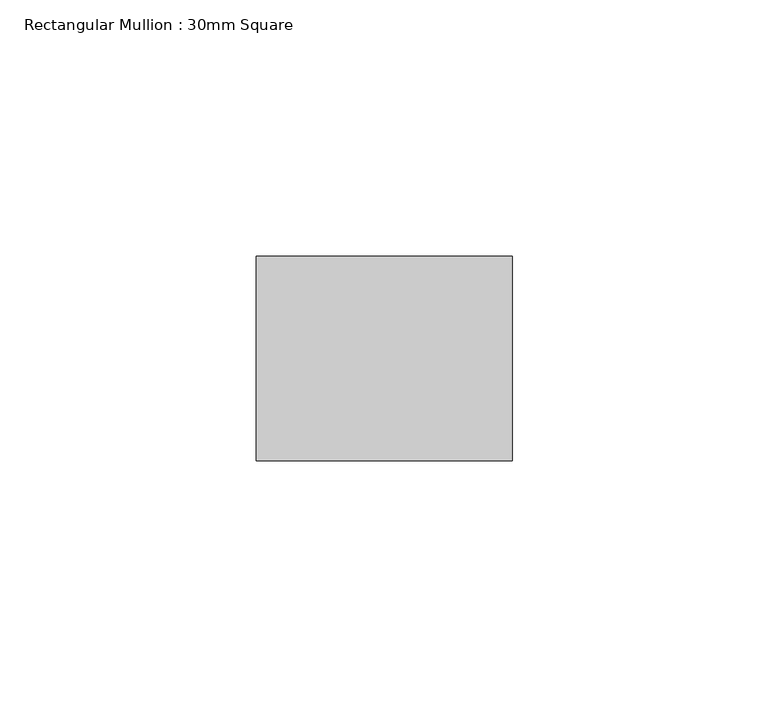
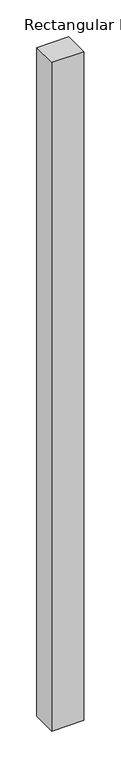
"""IFC4 building model written with IfcOpenShell, lengths in millimetres: member geometry, Rectangular Mullion : 30mm Square."""

from ifc_helpers import new_model, si_unit, frame, origin, place, context, project, spatial, polyline, outline, extrude, source, transform, mapped, element, save


def rectangular_mullion_30mm_square_8b2a8ca9(model_context):
    return source(origin(), model_context, "Body", "SweptSolid", [
        extrude(outline(polyline([(0.0, 20.0), (0.0, -20.0), (-50.0, -20.0), (-50.0, 20.0), (0.0, 20.0)])), frame((0.0, 0.0, -1105.0), z_axis=(0.0, 0.0, 1.0), x_axis=(1.0, 0.0, 0.0)), (0.0, 0.0, 1.0), 1105.0),
    ])


if __name__ == "__main__":
    model = new_model("IFC4")
    model_context = context("Model", 3, world=origin())
    ifc_project = project(units=[si_unit("LENGTHUNIT", "METRE", prefix="MILLI")], contexts=[model_context])
    site = spatial("IfcSite", under=ifc_project)
    building = spatial("IfcBuilding", under=site)
    placement = place(None, origin())
    rectangular_mullion_30mm_square_shape = rectangular_mullion_30mm_square_8b2a8ca9(model_context)
    element("IfcMember", 1, ObjectType="Rectangular Mullion : 30mm Square", at=placement, inside=building, context=model_context, shape_type="MappedRepresentation", body=[
        mapped(rectangular_mullion_30mm_square_shape, transform((0.0, 0.0, 0.0), x_axis=(1.0, 0.0, 0.0), y_axis=(0.0, 1.0, 0.0), z_axis=(0.0, 0.0, 1.0))),
    ])
    save(model, "model.ifc")
